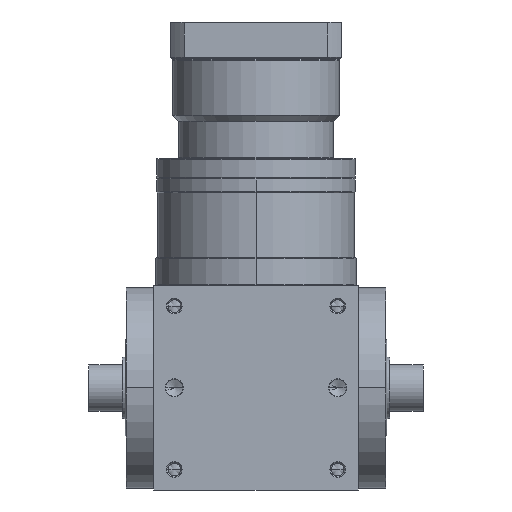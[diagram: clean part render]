
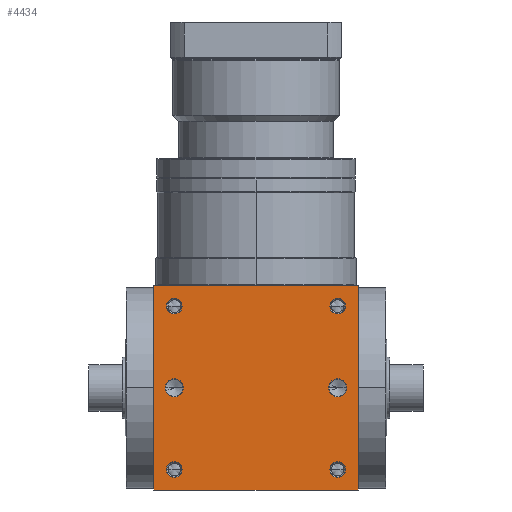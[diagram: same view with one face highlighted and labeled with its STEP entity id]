
A CAD part, front view. The second image highlights one B-rep face of the part: STEP entity #4434.
In plain terms, the highlighted planar face has unit normal (0, -1, 0).
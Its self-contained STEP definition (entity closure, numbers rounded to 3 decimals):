
#5=DIRECTION('',(1.,0.,0.));
#6=VECTOR('',#5,110.);
#7=CARTESIAN_POINT('',(-55.,-55.,-55.));
#8=LINE('',#7,#6);
#155=DIRECTION('',(0.,0.,1.));
#156=VECTOR('',#155,110.);
#157=CARTESIAN_POINT('',(55.,-55.,-55.));
#158=LINE('',#157,#156);
#209=DIRECTION('',(0.,0.,1.));
#210=VECTOR('',#209,110.);
#211=CARTESIAN_POINT('',(-55.,-55.,-55.));
#212=LINE('',#211,#210);
#213=CARTESIAN_POINT('',(44.,-55.,44.));
#214=DIRECTION('',(0.,1.,0.));
#215=DIRECTION('',(-1.,0.,0.));
#216=AXIS2_PLACEMENT_3D('',#213,#214,#215);
#218=CARTESIAN_POINT('',(44.,-55.,44.));
#219=DIRECTION('',(0.,1.,0.));
#220=DIRECTION('',(1.,0.,0.));
#221=AXIS2_PLACEMENT_3D('',#218,#219,#220);
#223=CARTESIAN_POINT('',(-44.,-55.,44.));
#224=DIRECTION('',(0.,1.,0.));
#225=DIRECTION('',(-1.,0.,0.));
#226=AXIS2_PLACEMENT_3D('',#223,#224,#225);
#228=CARTESIAN_POINT('',(-44.,-55.,44.));
#229=DIRECTION('',(0.,1.,0.));
#230=DIRECTION('',(1.,0.,0.));
#231=AXIS2_PLACEMENT_3D('',#228,#229,#230);
#233=CARTESIAN_POINT('',(44.,-55.,-44.));
#234=DIRECTION('',(0.,1.,0.));
#235=DIRECTION('',(-1.,0.,0.));
#236=AXIS2_PLACEMENT_3D('',#233,#234,#235);
#238=CARTESIAN_POINT('',(44.,-55.,-44.));
#239=DIRECTION('',(0.,1.,0.));
#240=DIRECTION('',(1.,0.,0.));
#241=AXIS2_PLACEMENT_3D('',#238,#239,#240);
#243=CARTESIAN_POINT('',(-44.,-55.,-44.));
#244=DIRECTION('',(0.,1.,0.));
#245=DIRECTION('',(-1.,0.,0.));
#246=AXIS2_PLACEMENT_3D('',#243,#244,#245);
#248=CARTESIAN_POINT('',(-44.,-55.,-44.));
#249=DIRECTION('',(0.,1.,0.));
#250=DIRECTION('',(1.,0.,0.));
#251=AXIS2_PLACEMENT_3D('',#248,#249,#250);
#253=CARTESIAN_POINT('',(-44.,-55.,0.));
#254=DIRECTION('',(0.,1.,0.));
#255=DIRECTION('',(1.,0.,0.));
#256=AXIS2_PLACEMENT_3D('',#253,#254,#255);
#258=CARTESIAN_POINT('',(-44.,-55.,0.));
#259=DIRECTION('',(0.,1.,0.));
#260=DIRECTION('',(-1.,0.,0.));
#261=AXIS2_PLACEMENT_3D('',#258,#259,#260);
#263=CARTESIAN_POINT('',(44.,-55.,0.));
#264=DIRECTION('',(0.,1.,0.));
#265=DIRECTION('',(1.,0.,0.));
#266=AXIS2_PLACEMENT_3D('',#263,#264,#265);
#268=CARTESIAN_POINT('',(44.,-55.,0.));
#269=DIRECTION('',(0.,1.,0.));
#270=DIRECTION('',(-1.,0.,0.));
#271=AXIS2_PLACEMENT_3D('',#268,#269,#270);
#285=DIRECTION('',(1.,0.,0.));
#286=VECTOR('',#285,110.);
#287=CARTESIAN_POINT('',(-55.,-55.,55.));
#288=LINE('',#287,#286);
#3572=CARTESIAN_POINT('',(-55.,-55.,-55.));
#3574=VERTEX_POINT('',#3572);
#3575=CARTESIAN_POINT('',(55.,-55.,-55.));
#3576=VERTEX_POINT('',#3575);
#3580=CARTESIAN_POINT('',(-55.,-55.,55.));
#3582=VERTEX_POINT('',#3580);
#3583=CARTESIAN_POINT('',(55.,-55.,55.));
#3584=VERTEX_POINT('',#3583);
#3739=CARTESIAN_POINT('',(39.8,-55.,44.));
#3740=CARTESIAN_POINT('',(48.2,-55.,44.));
#3741=VERTEX_POINT('',#3739);
#3742=VERTEX_POINT('',#3740);
#3747=CARTESIAN_POINT('',(-48.2,-55.,44.));
#3748=CARTESIAN_POINT('',(-39.8,-55.,44.));
#3749=VERTEX_POINT('',#3747);
#3750=VERTEX_POINT('',#3748);
#3755=CARTESIAN_POINT('',(39.8,-55.,-44.));
#3756=CARTESIAN_POINT('',(48.2,-55.,-44.));
#3757=VERTEX_POINT('',#3755);
#3758=VERTEX_POINT('',#3756);
#3763=CARTESIAN_POINT('',(-48.2,-55.,-44.));
#3764=CARTESIAN_POINT('',(-39.8,-55.,-44.));
#3765=VERTEX_POINT('',#3763);
#3766=VERTEX_POINT('',#3764);
#4087=CARTESIAN_POINT('',(-39.15,-55.,
0.));
#4088=CARTESIAN_POINT('',(-48.85,-55.,
0.));
#4089=VERTEX_POINT('',#4087);
#4090=VERTEX_POINT('',#4088);
#4095=CARTESIAN_POINT('',(48.85,-55.,0.));
#4096=CARTESIAN_POINT('',(39.15,-55.,0.));
#4097=VERTEX_POINT('',#4095);
#4098=VERTEX_POINT('',#4096);
#4386=CARTESIAN_POINT('',(-55.,-55.,-55.));
#4387=DIRECTION('',(0.,-1.,0.));
#4388=DIRECTION('',(1.,0.,0.));
#4389=AXIS2_PLACEMENT_3D('',#4386,#4387,#4388);
#4390=PLANE('',#4389);
#4391=ORIENTED_EDGE('',*,*,#4226,.F.);
#4392=ORIENTED_EDGE('',*,*,#4269,.T.);
#4394=ORIENTED_EDGE('',*,*,#4393,.T.);
#4395=ORIENTED_EDGE('',*,*,#4348,.F.);
#4396=EDGE_LOOP('',(#4391,#4392,#4394,#4395));
#4397=FACE_OUTER_BOUND('',#4396,.F.);
#4399=ORIENTED_EDGE('',*,*,#4398,.F.);
#4401=ORIENTED_EDGE('',*,*,#4400,.F.);
#4402=EDGE_LOOP('',(#4399,#4401));
#4403=FACE_BOUND('',#4402,.F.);
#4405=ORIENTED_EDGE('',*,*,#4404,.F.);
#4407=ORIENTED_EDGE('',*,*,#4406,.F.);
#4408=EDGE_LOOP('',(#4405,#4407));
#4409=FACE_BOUND('',#4408,.F.);
#4411=ORIENTED_EDGE('',*,*,#4410,.F.);
#4413=ORIENTED_EDGE('',*,*,#4412,.F.);
#4414=EDGE_LOOP('',(#4411,#4413));
#4415=FACE_BOUND('',#4414,.F.);
#4417=ORIENTED_EDGE('',*,*,#4416,.F.);
#4419=ORIENTED_EDGE('',*,*,#4418,.F.);
#4420=EDGE_LOOP('',(#4417,#4419));
#4421=FACE_BOUND('',#4420,.F.);
#4423=ORIENTED_EDGE('',*,*,#4422,.F.);
#4425=ORIENTED_EDGE('',*,*,#4424,.F.);
#4426=EDGE_LOOP('',(#4423,#4425));
#4427=FACE_BOUND('',#4426,.F.);
#4429=ORIENTED_EDGE('',*,*,#4428,.F.);
#4431=ORIENTED_EDGE('',*,*,#4430,.F.);
#4432=EDGE_LOOP('',(#4429,#4431));
#4433=FACE_BOUND('',#4432,.F.);
#4434=ADVANCED_FACE('',(#4397,#4403,#4409,#4415,#4421,#4427,#4433),#4390,.T.);
#217=CIRCLE('',#216,4.2);
#222=CIRCLE('',#221,4.2);
#227=CIRCLE('',#226,4.2);
#232=CIRCLE('',#231,4.2);
#237=CIRCLE('',#236,4.2);
#242=CIRCLE('',#241,4.2);
#247=CIRCLE('',#246,4.2);
#252=CIRCLE('',#251,4.2);
#257=CIRCLE('',#256,4.85);
#262=CIRCLE('',#261,4.85);
#267=CIRCLE('',#266,4.85);
#272=CIRCLE('',#271,4.85);
#4226=EDGE_CURVE('',#3574,#3576,#8,.T.);
#4269=EDGE_CURVE('',#3574,#3582,#212,.T.);
#4348=EDGE_CURVE('',#3576,#3584,#158,.T.);
#4393=EDGE_CURVE('',#3582,#3584,#288,.T.);
#4398=EDGE_CURVE('',#3741,#3742,#217,.T.);
#4400=EDGE_CURVE('',#3742,#3741,#222,.T.);
#4404=EDGE_CURVE('',#3749,#3750,#227,.T.);
#4406=EDGE_CURVE('',#3750,#3749,#232,.T.);
#4410=EDGE_CURVE('',#3757,#3758,#237,.T.);
#4412=EDGE_CURVE('',#3758,#3757,#242,.T.);
#4416=EDGE_CURVE('',#3765,#3766,#247,.T.);
#4418=EDGE_CURVE('',#3766,#3765,#252,.T.);
#4422=EDGE_CURVE('',#4089,#4090,#257,.T.);
#4424=EDGE_CURVE('',#4090,#4089,#262,.T.);
#4428=EDGE_CURVE('',#4097,#4098,#267,.T.);
#4430=EDGE_CURVE('',#4098,#4097,#272,.T.);
